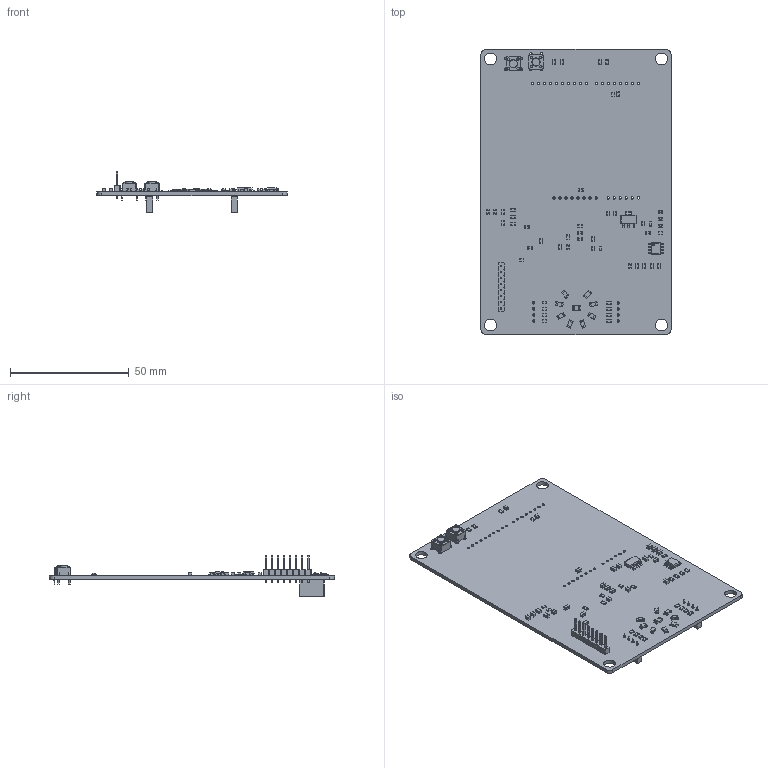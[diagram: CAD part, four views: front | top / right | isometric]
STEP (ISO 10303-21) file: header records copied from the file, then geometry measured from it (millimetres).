
FILE_DESCRIPTION(('KiCad electronic assembly'),'2;1');
FILE_NAME('PCB v2.step','2024-06-11T15:48:04',('Pcbnew'),('Kicad'), 'Open CASCADE STEP processor 7.7','KiCad to STEP converter','Unknown' );
FILE_SCHEMA(('AUTOMOTIVE_DESIGN { 1 0 10303 214 1 1 1 1 }'));
Length unit declared in the file: millimetre
Products named in the file (22): PCB v2 1; LED_1206_3216Metric; R_0805_2012Metric; D_1206_3216Metric; D_1206; C_0805_2012Metric; SW_PUSH_6mm; SOT-223; SOT_223; PinHeader_1x08_P2.54mm_Vertical; PinHeader_1x08_P254mm_Vertical; SOIC-8_3.9x4.9mm_P1.27mm; SOIC_8_39x49mm_P127mm; LED_0805_2012Metric; PinSocket_1x04_P2.54mm_Vertical; PinSocket_1x04_P254mm_Vertical; PCB v2_PCB
Assembly tree (76 placements, depth 3):
  PCB v2 1
    LED_1206_3216Metric  x8
      LED_1206_3216Metric
    R_0805_2012Metric  x25
      R_0805_2012Metric
    D_1206_3216Metric
      D_1206
    C_0805_2012Metric  x22
      C_0805_2012Metric
    SW_PUSH_6mm  x2
      SW_PUSH_6mm
    SOT-223
      SOT_223
    PinHeader_1x08_P2.54mm_Vertical
      PinHeader_1x08_P254mm_Vertical
    SOIC-8_3.9x4.9mm_P1.27mm
      SOIC_8_39x49mm_P127mm
    LED_0805_2012Metric  x2
      LED_0805_2012Metric
    PinSocket_1x04_P2.54mm_Vertical  x2
      PinSocket_1x04_P254mm_Vertical
    PCB v2_PCB
Bounding box: 80 x 120 x 17.24 mm (x, y, z)
Volume: 16136.2 mm3; surface area: 22258.5 mm2
Topology: 66 solids, 66 shells, 2783 faces, 7241 edges, 4696 vertices
Faces by surface type: plane 1980, cylinder 753, bspline 48, torus 2
Full cylindrical faces by diameter (mm): 0.6 x1, 1 x56, 1.1 x8, 3.5 x2, 5 x4
Entity records: 35050 total; most frequent: CARTESIAN_POINT 5210, ORIENTED_EDGE 4824, DIRECTION 4676, EDGE_CURVE 2412, LINE 1958, VECTOR 1958, VERTEX_POINT 1541, AXIS2_PLACEMENT_3D 1359
